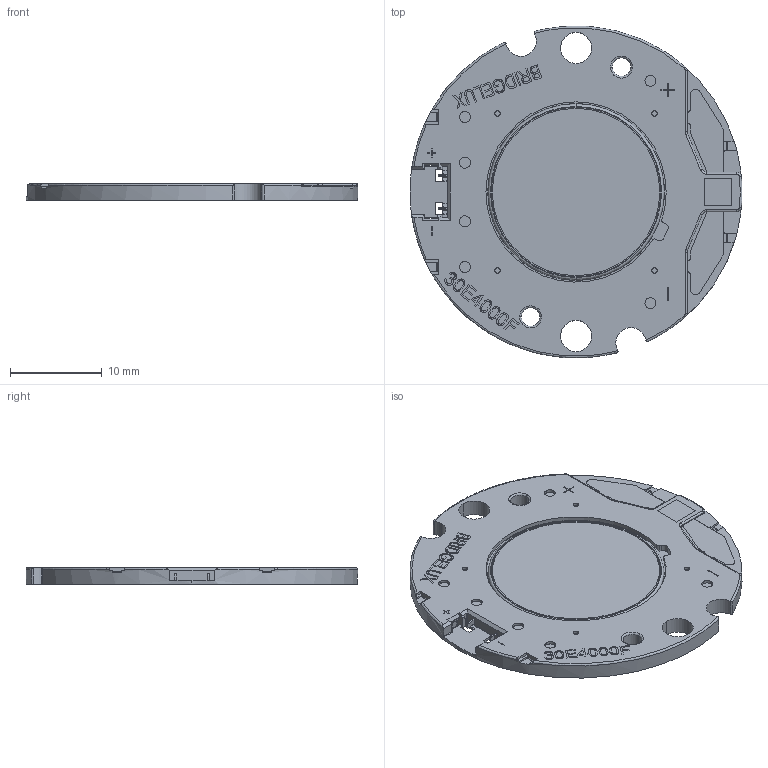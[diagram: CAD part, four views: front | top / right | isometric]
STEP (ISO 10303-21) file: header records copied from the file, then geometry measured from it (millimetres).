
FILE_DESCRIPTION (( 'STEP AP214' ), '1' );
FILE_NAME ('GEN8 Vero18.STEP', '2020-09-12T08:21:20', ( '' ), ( '' ), 'SwSTEP 2.0', 'SolidWorks 2018', '' );
FILE_SCHEMA (( 'AUTOMOTIVE_DESIGN' ));
Length unit declared in the file: millimetre
Products named in the file (1): GEN8 Vero18
Bounding box: 36.19 x 36.15 x 1.8 mm (x, y, z)
Volume: 1552.2 mm3; surface area: 3164.8 mm2
Topology: 10 solids, 12 shells, 1017 faces, 2720 edges, 1766 vertices
Faces by surface type: plane 525, cylinder 314, bspline 149, cone 23, torus 6
Entity records: 50169 total; most frequent: CARTESIAN_POINT 13895, ORIENTED_EDGE 5422, DIRECTION 4861, EDGE_CURVE 2711, VERTEX_POINT 1766, LINE 1679, VECTOR 1679, AXIS2_PLACEMENT_3D 1591
